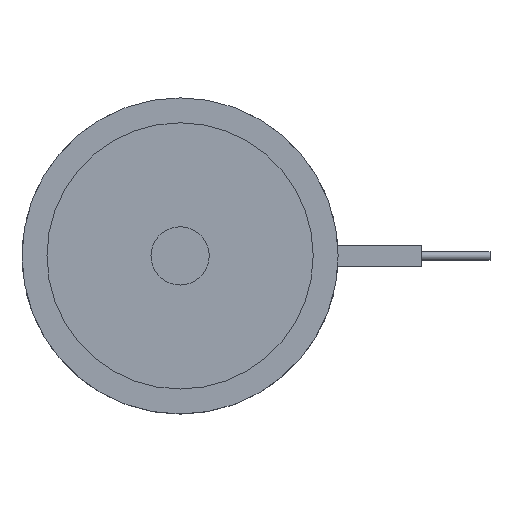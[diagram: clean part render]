
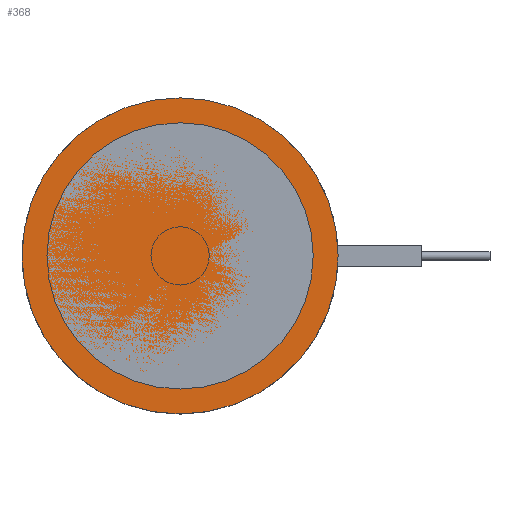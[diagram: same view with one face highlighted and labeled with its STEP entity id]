
A CAD part, top view. The second image highlights one B-rep face of the part: STEP entity #368.
In plain terms, the highlighted planar face has unit normal (0, 0, 1).
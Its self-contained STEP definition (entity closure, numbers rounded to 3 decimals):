
#237=PLANE('',#1176);
#289=FACE_OUTER_BOUND('',#559,.T.);
#368=ADVANCED_FACE('',(#289),#237,.F.);
#559=EDGE_LOOP('',(#779));
#779=ORIENTED_EDGE('',*,*,#982,.F.);
#871=VERTEX_POINT('',#1851);
#982=EDGE_CURVE('',#871,#871,#1044,.T.);
#1044=CIRCLE('',#1175,19.);
#1175=AXIS2_PLACEMENT_3D('',#1850,#1478,#1479);
#1176=AXIS2_PLACEMENT_3D('',#1852,#1480,#1481);
#1478=DIRECTION('',(0.,0.,-1.));
#1479=DIRECTION('',(-1.,0.,0.));
#1480=DIRECTION('',(0.,0.,-1.));
#1481=DIRECTION('',(-1.,0.,0.));
#1850=CARTESIAN_POINT('',(0.,0.,0.));
#1851=CARTESIAN_POINT('',(-19.,0.,0.));
#1852=CARTESIAN_POINT('',(0.,0.,0.));
